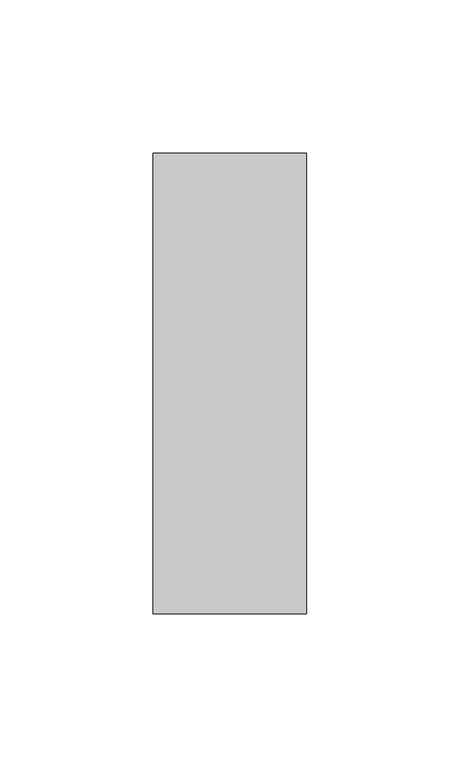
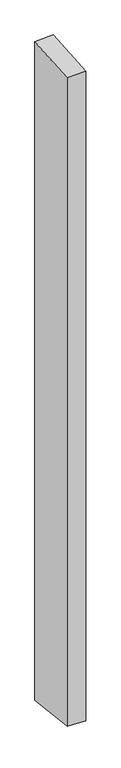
"""IFC4 building model written with IfcOpenShell, lengths in millimetres: member geometry, Прямоугольный импост : 50 x 150 мм."""

from ifc_helpers import new_model, si_unit, origin, place, context, project, spatial, faceted_brep, source, transform, mapped, element, save


def member_be4baf45(model_context):
    return source(origin(), model_context, "Body", "Brep", [
        faceted_brep([(-25.0, 75.0, 5.2076438), (25.0, 75.0, 7.0172043), (25.0, 75.0, -1870.9424395), (-25.0, 75.0, -1868.6021117), (-25.0, -75.0, -7.0172043), (-25.0, -75.0, -1851.4329904), (25.0, -75.0, -5.2076438), (25.0, -75.0, -1853.7733182)], [[[0, 1, 2, 3]], [[4, 0, 3, 5]], [[6, 4, 5, 7]], [[1, 6, 7, 2]], [[1, 0, 4, 6]], [[2, 7, 5, 3]]]),
    ])


if __name__ == "__main__":
    model = new_model("IFC4")
    model_context = context("Model", 3, world=origin())
    ifc_project = project(units=[si_unit("LENGTHUNIT", "METRE", prefix="MILLI")], contexts=[model_context])
    site = spatial("IfcSite", under=ifc_project)
    building = spatial("IfcBuilding", under=site)
    placement = place(None, origin())
    member_shape = member_be4baf45(model_context)
    element("IfcMember", 1, ObjectType="Прямоугольный импост : 50 x 150 мм", at=placement, inside=building, context=model_context, shape_type="MappedRepresentation", body=[
        mapped(member_shape, transform((0.0, 0.0, 0.0), x_axis=(1.0, 0.0, 0.0), y_axis=(0.0, 1.0, 0.0), z_axis=(0.0, 0.0, 1.0))),
    ])
    save(model, "model.ifc")
